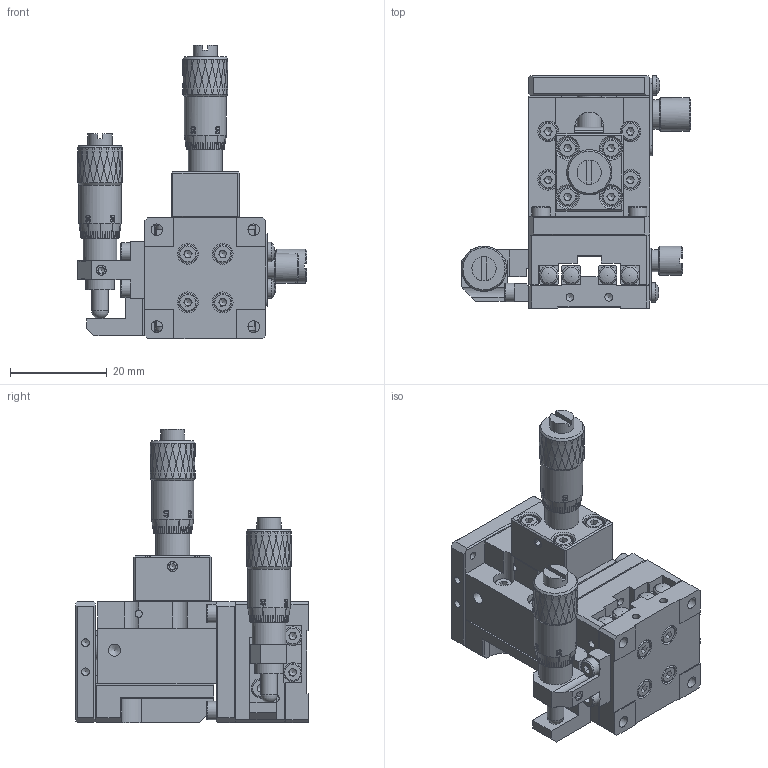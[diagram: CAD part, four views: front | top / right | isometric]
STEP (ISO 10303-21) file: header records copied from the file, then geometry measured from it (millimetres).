
FILE_DESCRIPTION (( 'STEP AP203' ), '1' );
FILE_NAME ('BLE25.STEP', '2024-07-27T06:17:10', ( 'Windows User' ), ( 'P R C' ), 'SwSTEP 2.0', 'SolidWorks 2024', '' );
FILE_SCHEMA (( 'CONFIG_CONTROL_DESIGN' ));
Products named in the file (1): BLE25
Bounding box: 47.5 x 48 x 60.6 mm (x, y, z)
Volume: 28934.8 mm3; surface area: 30932.1 mm2
Topology: 68 solids, 68 shells, 2678 faces, 6308 edges, 3989 vertices
Faces by surface type: plane 1171, bspline 594, cylinder 534, cone 307, torus 67, sphere 5
Full cylindrical faces by diameter (mm): 1.5 x1, 1.6 x48, 1.65 x16, 2 x38, 2.05 x5, 2.1 x3, 2.2 x4, 2.3 x4, 2.4 x29, 2.5 x10, 3 x16, 3.5 x4, 3.8 x34, 3.9 x16, 4 x10, 4.3 x25, 4.5 x1, 5 x6, 6 x7, 7 x5, 7.5 x1, 8.7 x2, 10 x1
Entity records: 100979 total; most frequent: CARTESIAN_POINT 47882, ORIENTED_EDGE 11232, DIRECTION 8836, EDGE_CURVE 5616, VERTEX_POINT 3822, EDGE_LOOP 3606, AXIS2_PLACEMENT_3D 3354, FACE_OUTER_BOUND 3016
